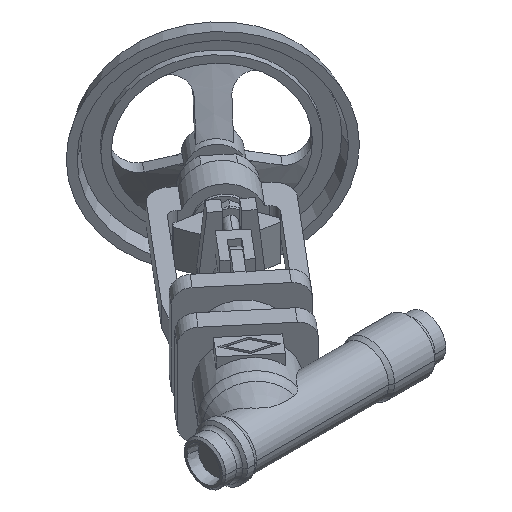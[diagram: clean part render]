
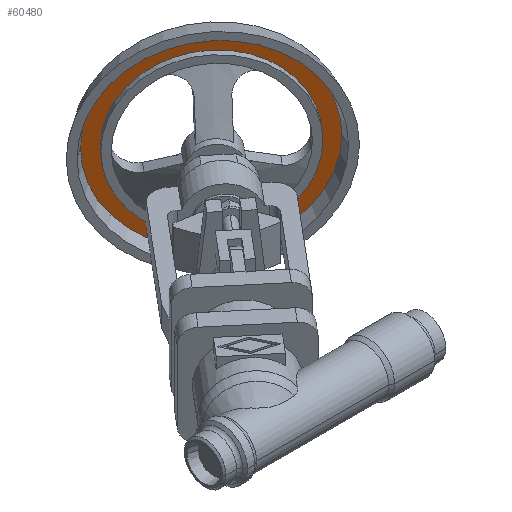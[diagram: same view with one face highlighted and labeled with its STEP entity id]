
A CAD part, isometric view. The second image highlights one B-rep face of the part: STEP entity #60480.
In plain terms, the highlighted planar face has unit normal (-0.643, -0.766, 0).
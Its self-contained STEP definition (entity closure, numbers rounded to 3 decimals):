
#59930=CARTESIAN_POINT('',(142.873,225.654,0.));
#59940=VERTEX_POINT('',#59930);
#59970=CARTESIAN_POINT('',(190.683,185.536,0.));
#59980=DIRECTION('',(0.643,0.766,0.));
#59990=DIRECTION('',(-0.766,0.643,
0.));
#60000=AXIS2_PLACEMENT_3D('',#59970,#59980,#59990);
#60010=CIRCLE('',#60000,62.412);
#60020=CARTESIAN_POINT('',(238.494,145.418,
0.));
#60030=VERTEX_POINT('',#60020);
#60040=EDGE_CURVE('',#60030,#59940,#60010,.T.);
#60230=CARTESIAN_POINT('',(146.478,222.629,
0.));
#60240=DIRECTION('',(-0.643,-0.766,0.));
#60250=DIRECTION('',(0.766,-0.643,
0.));
#60260=AXIS2_PLACEMENT_3D('',#60230,#60240,#60250);
#60270=PLANE('',#60260);
#60280=ORIENTED_EDGE('',*,*,#60040,.F.);
#60290=EDGE_CURVE('',#59940,#60030,#60010,.T.);
#60300=ORIENTED_EDGE('',*,*,#60290,.F.);
#60310=EDGE_LOOP('',(#60300,#60280));
#60320=FACE_OUTER_BOUND('',#60310,.T.);
#60330=CARTESIAN_POINT('',(190.683,185.536,0.));
#60340=DIRECTION('',(0.643,0.766,
0.));
#60350=DIRECTION('',(-0.766,0.643,
0.));
#60360=AXIS2_PLACEMENT_3D('',#60330,#60340,#60350);
#60370=CIRCLE('',#60360,53.);
#60380=CARTESIAN_POINT('',(231.284,151.468,
0.));
#60390=VERTEX_POINT('',#60380);
#60400=CARTESIAN_POINT('',(150.083,219.604,
0.));
#60410=VERTEX_POINT('',#60400);
#60420=EDGE_CURVE('',#60390,#60410,#60370,.T.);
#60430=ORIENTED_EDGE('',*,*,#60420,.T.);
#60440=EDGE_CURVE('',#60410,#60390,#60370,.T.);
#60450=ORIENTED_EDGE('',*,*,#60440,.T.);
#60460=EDGE_LOOP('',(#60450,#60430));
#60470=FACE_BOUND('',#60460,.T.);
#60480=ADVANCED_FACE('',(#60320,#60470),#60270,.T.);
